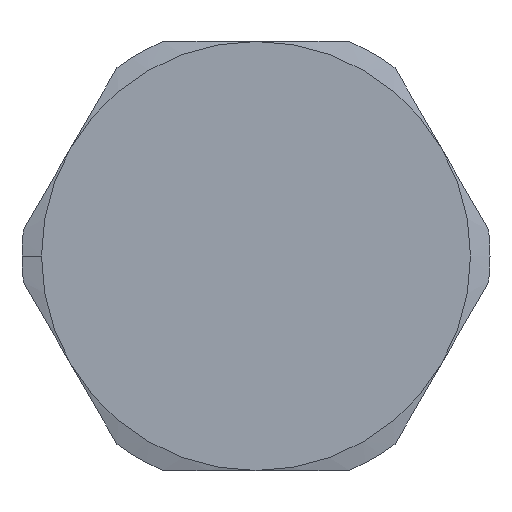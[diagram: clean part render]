
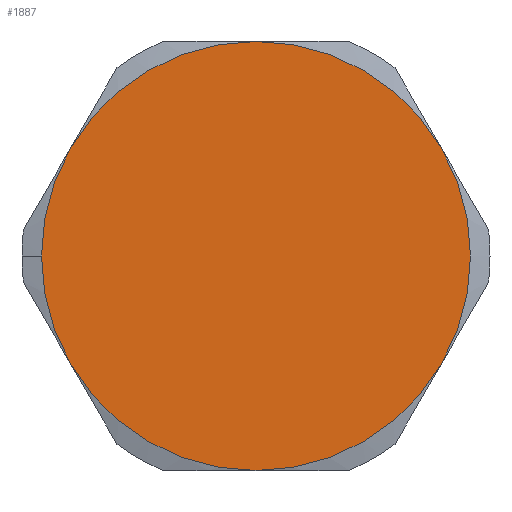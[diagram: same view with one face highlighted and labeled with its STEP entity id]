
A CAD part, left-side view. The second image highlights one B-rep face of the part: STEP entity #1887.
In plain terms, the highlighted planar face has unit normal (-1, 0, 0).
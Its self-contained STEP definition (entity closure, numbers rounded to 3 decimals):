
#6 = CIRCLE ( 'NONE', #533, 5.5 ) ;
#12 = CIRCLE ( 'NONE', #340, 5.5 ) ;
#33 = DIRECTION ( 'NONE',  ( -1., 0., 0. ) ) ;
#36 = VERTEX_POINT ( 'NONE', #1876 ) ;
#39 = AXIS2_PLACEMENT_3D ( 'NONE', #1936, #286, #1670 ) ;
#88 = CARTESIAN_POINT ( 'NONE',  ( 0., 4.763, 2.75 ) ) ;
#153 = DIRECTION ( 'NONE',  ( -1., 0., 0. ) ) ;
#254 = DIRECTION ( 'NONE',  ( 1., 0., 0. ) ) ;
#271 = DIRECTION ( 'NONE',  ( 0., -1., 0. ) ) ;
#286 = DIRECTION ( 'NONE',  ( -1., 0., 0. ) ) ;
#287 = ORIENTED_EDGE ( 'NONE', *, *, #1423, .T. ) ;
#303 = CARTESIAN_POINT ( 'NONE',  ( 0., 0., 5.5 ) ) ;
#340 = AXIS2_PLACEMENT_3D ( 'NONE', #522, #1024, #1127 ) ;
#393 = EDGE_CURVE ( 'NONE', #664, #563, #1949, .T. ) ;
#410 = CIRCLE ( 'NONE', #671, 5.5 ) ;
#423 = ORIENTED_EDGE ( 'NONE', *, *, #991, .T. ) ;
#437 = CARTESIAN_POINT ( 'NONE',  ( 0., 5.5, 0. ) ) ;
#467 = AXIS2_PLACEMENT_3D ( 'NONE', #1061, #153, #1526 ) ;
#522 = CARTESIAN_POINT ( 'NONE',  ( 0., 0., 0. ) ) ;
#530 = AXIS2_PLACEMENT_3D ( 'NONE', #1348, #254, #1659 ) ;
#531 = DIRECTION ( 'NONE',  ( -1., 0., 0. ) ) ;
#533 = AXIS2_PLACEMENT_3D ( 'NONE', #1425, #33, #1304 ) ;
#534 = PLANE ( 'NONE',  #530 ) ;
#563 = VERTEX_POINT ( 'NONE', #88 ) ;
#570 = DIRECTION ( 'NONE',  ( -1., 0., 0. ) ) ;
#664 = VERTEX_POINT ( 'NONE', #303 ) ;
#671 = AXIS2_PLACEMENT_3D ( 'NONE', #1965, #570, #1796 ) ;
#680 = CARTESIAN_POINT ( 'NONE',  ( 0., -4.763, -2.75 ) ) ;
#785 = VERTEX_POINT ( 'NONE', #943 ) ;
#890 = DIRECTION ( 'NONE',  ( -1., 0., 0. ) ) ;
#926 = VERTEX_POINT ( 'NONE', #680 ) ;
#928 = CIRCLE ( 'NONE', #39, 5.5 ) ;
#943 = CARTESIAN_POINT ( 'NONE',  ( 0., -4.763, 2.75 ) ) ;
#991 = EDGE_CURVE ( 'NONE', #785, #664, #12, .T. ) ;
#1024 = DIRECTION ( 'NONE',  ( -1., 0., 0. ) ) ;
#1040 = CARTESIAN_POINT ( 'NONE',  ( 0., 0., -5.5 ) ) ;
#1043 = EDGE_LOOP ( 'NONE', ( #423, #1867, #1564, #1227, #1865, #287, #1575 ) ) ;
#1061 = CARTESIAN_POINT ( 'NONE',  ( 0., 0., 0. ) ) ;
#1079 = AXIS2_PLACEMENT_3D ( 'NONE', #1780, #531, #1474 ) ;
#1127 = DIRECTION ( 'NONE',  ( 0., -1., 0. ) ) ;
#1178 = EDGE_CURVE ( 'NONE', #36, #1188, #1475, .T. ) ;
#1184 = CIRCLE ( 'NONE', #467, 5.5 ) ;
#1188 = VERTEX_POINT ( 'NONE', #1040 ) ;
#1221 = EDGE_CURVE ( 'NONE', #563, #1361, #410, .T. ) ;
#1227 = ORIENTED_EDGE ( 'NONE', *, *, #1953, .T. ) ;
#1304 = DIRECTION ( 'NONE',  ( 0., -1., 0. ) ) ;
#1348 = CARTESIAN_POINT ( 'NONE',  ( 0., 0., 0. ) ) ;
#1361 = VERTEX_POINT ( 'NONE', #437 ) ;
#1423 = EDGE_CURVE ( 'NONE', #1188, #926, #6, .T. ) ;
#1425 = CARTESIAN_POINT ( 'NONE',  ( 0., 0., 0. ) ) ;
#1474 = DIRECTION ( 'NONE',  ( 0., -1., 0. ) ) ;
#1475 = CIRCLE ( 'NONE', #1898, 5.5 ) ;
#1498 = CARTESIAN_POINT ( 'NONE',  ( 0., 0., 0. ) ) ;
#1526 = DIRECTION ( 'NONE',  ( 0., -1., 0. ) ) ;
#1564 = ORIENTED_EDGE ( 'NONE', *, *, #1221, .T. ) ;
#1575 = ORIENTED_EDGE ( 'NONE', *, *, #2013, .T. ) ;
#1651 = FACE_OUTER_BOUND ( 'NONE', #1043, .T. ) ;
#1659 = DIRECTION ( 'NONE',  ( 0., 1., 0. ) ) ;
#1670 = DIRECTION ( 'NONE',  ( 0., -1., 0. ) ) ;
#1780 = CARTESIAN_POINT ( 'NONE',  ( 0., 0., 0. ) ) ;
#1796 = DIRECTION ( 'NONE',  ( 0., -1., 0. ) ) ;
#1865 = ORIENTED_EDGE ( 'NONE', *, *, #1178, .T. ) ;
#1867 = ORIENTED_EDGE ( 'NONE', *, *, #393, .T. ) ;
#1876 = CARTESIAN_POINT ( 'NONE',  ( 0., 4.763, -2.75 ) ) ;
#1887 = ADVANCED_FACE ( 'NONE', ( #1651 ), #534, .F. ) ;
#1898 = AXIS2_PLACEMENT_3D ( 'NONE', #1498, #890, #271 ) ;
#1936 = CARTESIAN_POINT ( 'NONE',  ( 0., 0., 0. ) ) ;
#1949 = CIRCLE ( 'NONE', #1079, 5.5 ) ;
#1953 = EDGE_CURVE ( 'NONE', #1361, #36, #928, .T. ) ;
#1965 = CARTESIAN_POINT ( 'NONE',  ( 0., 0., 0. ) ) ;
#2013 = EDGE_CURVE ( 'NONE', #926, #785, #1184, .T. ) ;
